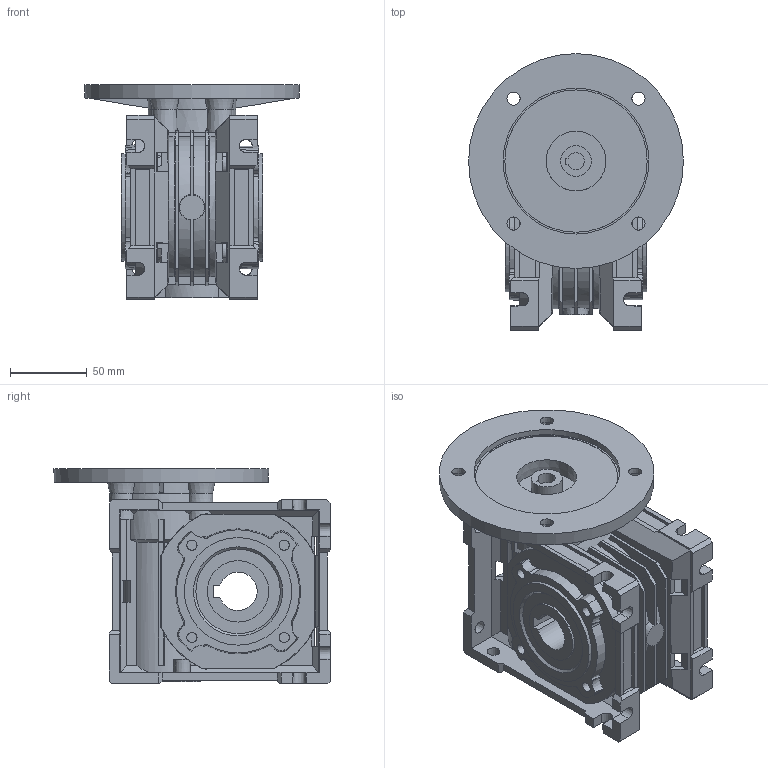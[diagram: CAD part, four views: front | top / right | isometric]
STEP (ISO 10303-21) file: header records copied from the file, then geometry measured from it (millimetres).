
FILE_DESCRIPTION( ( 'Unknown' ), '1' );
FILE_NAME( 'E:/services/configuratordownloads/customers/transtecno/cm/download/C7968A4F45F6041D9623292EC7F18C/STEP/C7968A4F45F6041D9623292EC7F18C.3d.stp', 'Unknown', ( 'Unknown' ), ( 'Unknown' ), 'PSStep 10.1', 'Unknown', ' ' );
FILE_SCHEMA( ( 'AUTOMOTIVE_DESIGN { 1 0 10303 214 1 1 1 1 }' ) );
Length unit declared in the file: millimetre
Products named in the file (1): 0eeaabbf-be24-497b-ba2e-87450e65bf4b
Bounding box: 139.95 x 179.97 x 140 mm (x, y, z)
Volume: 1006300.8 mm3; surface area: 189331.5 mm2
Topology: 1 solids, 5 shells, 721 faces, 2031 edges, 1340 vertices
Faces by surface type: plane 533, cone 146, bspline 24, cylinder 18
Full cylindrical faces by diameter (mm): 20 x2, 40 x2, 47 x1, 55.1 x1, 70 x2, 95 x1
Entity records: 30733 total; most frequent: CARTESIAN_POINT 6895, ORIENTED_EDGE 3918, DIRECTION 3484, EDGE_CURVE 1959, VERTEX_POINT 1312, LINE 1224, VECTOR 1224, AXIS2_PLACEMENT_3D 1130
